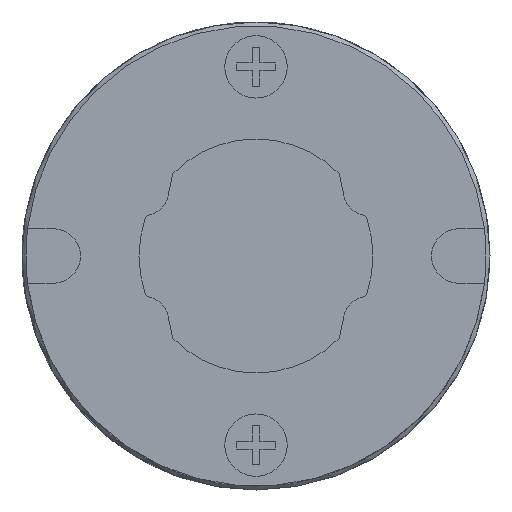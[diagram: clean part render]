
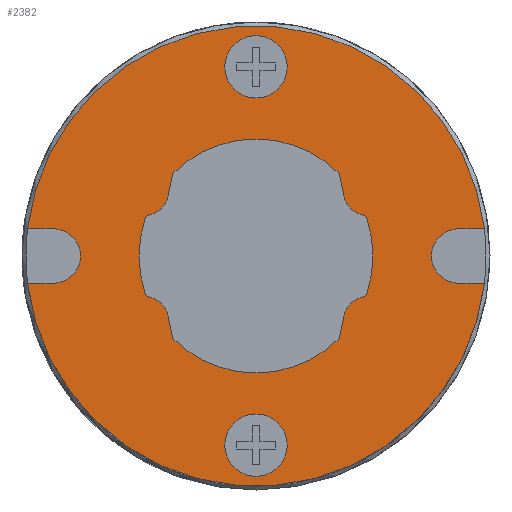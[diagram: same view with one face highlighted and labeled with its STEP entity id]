
A CAD part, left-side view. The second image highlights one B-rep face of the part: STEP entity #2382.
In plain terms, the highlighted planar face has unit normal (-1, 0, 0).
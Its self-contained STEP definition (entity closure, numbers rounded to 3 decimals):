
#50=PLANE('',#2605);
#190=LINE('',#3729,#432);
#191=LINE('',#3733,#433);
#192=LINE('',#3737,#434);
#193=LINE('',#3741,#435);
#194=LINE('',#3755,#436);
#195=LINE('',#3763,#437);
#196=LINE('',#3775,#438);
#197=LINE('',#3783,#439);
#432=VECTOR('',#3000,1000.);
#433=VECTOR('',#3003,1000.);
#434=VECTOR('',#3006,1000.);
#435=VECTOR('',#3009,1000.);
#436=VECTOR('',#3022,1000.);
#437=VECTOR('',#3029,1000.);
#438=VECTOR('',#3040,1000.);
#439=VECTOR('',#3047,1000.);
#796=ORIENTED_EDGE('',*,*,#1430,.T.);
#797=ORIENTED_EDGE('',*,*,#1431,.T.);
#798=ORIENTED_EDGE('',*,*,#1432,.T.);
#799=ORIENTED_EDGE('',*,*,#1433,.F.);
#800=ORIENTED_EDGE('',*,*,#1434,.T.);
#801=ORIENTED_EDGE('',*,*,#1435,.T.);
#802=ORIENTED_EDGE('',*,*,#1436,.T.);
#803=ORIENTED_EDGE('',*,*,#1364,.F.);
#804=ORIENTED_EDGE('',*,*,#1437,.F.);
#805=ORIENTED_EDGE('',*,*,#1438,.F.);
#806=ORIENTED_EDGE('',*,*,#1439,.F.);
#807=ORIENTED_EDGE('',*,*,#1440,.F.);
#808=ORIENTED_EDGE('',*,*,#1441,.F.);
#809=ORIENTED_EDGE('',*,*,#1442,.T.);
#810=ORIENTED_EDGE('',*,*,#1443,.F.);
#811=ORIENTED_EDGE('',*,*,#1444,.F.);
#812=ORIENTED_EDGE('',*,*,#1445,.F.);
#813=ORIENTED_EDGE('',*,*,#1446,.F.);
#814=ORIENTED_EDGE('',*,*,#1447,.F.);
#815=ORIENTED_EDGE('',*,*,#1448,.T.);
#816=ORIENTED_EDGE('',*,*,#1449,.F.);
#817=ORIENTED_EDGE('',*,*,#1450,.F.);
#818=ORIENTED_EDGE('',*,*,#1451,.F.);
#819=ORIENTED_EDGE('',*,*,#1452,.T.);
#820=ORIENTED_EDGE('',*,*,#1453,.F.);
#821=ORIENTED_EDGE('',*,*,#1454,.F.);
#822=ORIENTED_EDGE('',*,*,#1455,.F.);
#823=ORIENTED_EDGE('',*,*,#1456,.F.);
#824=ORIENTED_EDGE('',*,*,#1457,.F.);
#825=ORIENTED_EDGE('',*,*,#1458,.T.);
#1364=EDGE_CURVE('',#1692,#1693,#1918,.T.);
#1430=EDGE_CURVE('',#1692,#1756,#190,.T.);
#1431=EDGE_CURVE('',#1756,#1757,#1946,.T.);
#1432=EDGE_CURVE('',#1757,#1758,#191,.T.);
#1433=EDGE_CURVE('',#1759,#1758,#1947,.T.);
#1434=EDGE_CURVE('',#1759,#1760,#192,.T.);
#1435=EDGE_CURVE('',#1760,#1761,#1948,.T.);
#1436=EDGE_CURVE('',#1761,#1693,#193,.T.);
#1437=EDGE_CURVE('',#1762,#1762,#1949,.F.);
#1438=EDGE_CURVE('',#1763,#1763,#1950,.F.);
#1439=EDGE_CURVE('',#1764,#1765,#1951,.F.);
#1440=EDGE_CURVE('',#1766,#1764,#1952,.F.);
#1441=EDGE_CURVE('',#1767,#1766,#1953,.F.);
#1442=EDGE_CURVE('',#1767,#1768,#1954,.F.);
#1443=EDGE_CURVE('',#1769,#1768,#194,.T.);
#1444=EDGE_CURVE('',#1770,#1769,#1955,.F.);
#1445=EDGE_CURVE('',#1771,#1770,#1956,.F.);
#1446=EDGE_CURVE('',#1772,#1771,#1957,.F.);
#1447=EDGE_CURVE('',#1773,#1772,#195,.T.);
#1448=EDGE_CURVE('',#1773,#1774,#1958,.F.);
#1449=EDGE_CURVE('',#1775,#1774,#1959,.F.);
#1450=EDGE_CURVE('',#1776,#1775,#1960,.F.);
#1451=EDGE_CURVE('',#1777,#1776,#1961,.F.);
#1452=EDGE_CURVE('',#1777,#1778,#1962,.F.);
#1453=EDGE_CURVE('',#1779,#1778,#196,.T.);
#1454=EDGE_CURVE('',#1780,#1779,#1963,.F.);
#1455=EDGE_CURVE('',#1781,#1780,#1964,.F.);
#1456=EDGE_CURVE('',#1782,#1781,#1965,.F.);
#1457=EDGE_CURVE('',#1783,#1782,#197,.T.);
#1458=EDGE_CURVE('',#1783,#1765,#1966,.F.);
#1692=VERTEX_POINT('',#3594);
#1693=VERTEX_POINT('',#3595);
#1756=VERTEX_POINT('',#3730);
#1757=VERTEX_POINT('',#3732);
#1758=VERTEX_POINT('',#3734);
#1759=VERTEX_POINT('',#3736);
#1760=VERTEX_POINT('',#3738);
#1761=VERTEX_POINT('',#3740);
#1762=VERTEX_POINT('',#3743);
#1763=VERTEX_POINT('',#3745);
#1764=VERTEX_POINT('',#3747);
#1765=VERTEX_POINT('',#3748);
#1766=VERTEX_POINT('',#3750);
#1767=VERTEX_POINT('',#3752);
#1768=VERTEX_POINT('',#3754);
#1769=VERTEX_POINT('',#3756);
#1770=VERTEX_POINT('',#3758);
#1771=VERTEX_POINT('',#3760);
#1772=VERTEX_POINT('',#3762);
#1773=VERTEX_POINT('',#3764);
#1774=VERTEX_POINT('',#3766);
#1775=VERTEX_POINT('',#3768);
#1776=VERTEX_POINT('',#3770);
#1777=VERTEX_POINT('',#3772);
#1778=VERTEX_POINT('',#3774);
#1779=VERTEX_POINT('',#3776);
#1780=VERTEX_POINT('',#3778);
#1781=VERTEX_POINT('',#3780);
#1782=VERTEX_POINT('',#3782);
#1783=VERTEX_POINT('',#3784);
#1918=CIRCLE('',#2572,5.9);
#1946=CIRCLE('',#2606,0.7);
#1947=CIRCLE('',#2607,5.9);
#1948=CIRCLE('',#2608,0.7);
#1949=CIRCLE('',#2609,0.8);
#1950=CIRCLE('',#2610,0.8);
#1951=CIRCLE('',#2611,0.15);
#1952=CIRCLE('',#2612,3.);
#1953=CIRCLE('',#2613,0.15);
#1954=CIRCLE('',#2614,0.63);
#1955=CIRCLE('',#2615,0.15);
#1956=CIRCLE('',#2616,3.);
#1957=CIRCLE('',#2617,0.15);
#1958=CIRCLE('',#2618,0.63);
#1959=CIRCLE('',#2619,0.15);
#1960=CIRCLE('',#2620,3.);
#1961=CIRCLE('',#2621,0.15);
#1962=CIRCLE('',#2622,0.63);
#1963=CIRCLE('',#2623,0.15);
#1964=CIRCLE('',#2624,3.);
#1965=CIRCLE('',#2625,0.15);
#1966=CIRCLE('',#2626,0.63);
#2017=EDGE_LOOP('',(#796,#797,#798,#799,#800,#801,#802,#803));
#2018=EDGE_LOOP('',(#804));
#2019=EDGE_LOOP('',(#805));
#2020=EDGE_LOOP('',(#806,#807,#808,#809,#810,#811,#812,#813,#814,#815,#816,
#817,#818,#819,#820,#821,#822,#823,#824,#825));
#2177=FACE_BOUND('',#2017,.T.);
#2178=FACE_BOUND('',#2018,.T.);
#2179=FACE_BOUND('',#2019,.T.);
#2180=FACE_BOUND('',#2020,.T.);
#2382=ADVANCED_FACE('',(#2177,#2178,#2179,#2180),#50,.F.);
#2572=AXIS2_PLACEMENT_3D('',#3593,#2894,#2895);
#2605=AXIS2_PLACEMENT_3D('',#3728,#2998,#2999);
#2606=AXIS2_PLACEMENT_3D('',#3731,#3001,#3002);
#2607=AXIS2_PLACEMENT_3D('',#3735,#3004,#3005);
#2608=AXIS2_PLACEMENT_3D('',#3739,#3007,#3008);
#2609=AXIS2_PLACEMENT_3D('',#3742,#3010,#3011);
#2610=AXIS2_PLACEMENT_3D('',#3744,#3012,#3013);
#2611=AXIS2_PLACEMENT_3D('',#3746,#3014,#3015);
#2612=AXIS2_PLACEMENT_3D('',#3749,#3016,#3017);
#2613=AXIS2_PLACEMENT_3D('',#3751,#3018,#3019);
#2614=AXIS2_PLACEMENT_3D('',#3753,#3020,#3021);
#2615=AXIS2_PLACEMENT_3D('',#3757,#3023,#3024);
#2616=AXIS2_PLACEMENT_3D('',#3759,#3025,#3026);
#2617=AXIS2_PLACEMENT_3D('',#3761,#3027,#3028);
#2618=AXIS2_PLACEMENT_3D('',#3765,#3030,#3031);
#2619=AXIS2_PLACEMENT_3D('',#3767,#3032,#3033);
#2620=AXIS2_PLACEMENT_3D('',#3769,#3034,#3035);
#2621=AXIS2_PLACEMENT_3D('',#3771,#3036,#3037);
#2622=AXIS2_PLACEMENT_3D('',#3773,#3038,#3039);
#2623=AXIS2_PLACEMENT_3D('',#3777,#3041,#3042);
#2624=AXIS2_PLACEMENT_3D('',#3779,#3043,#3044);
#2625=AXIS2_PLACEMENT_3D('',#3781,#3045,#3046);
#2626=AXIS2_PLACEMENT_3D('',#3785,#3048,#3049);
#2894=DIRECTION('',(1.,0.,0.));
#2895=DIRECTION('',(0.,0.,-1.));
#2998=DIRECTION('',(1.,0.,0.));
#2999=DIRECTION('',(0.,0.,-1.));
#3000=DIRECTION('',(0.,-1.,0.));
#3001=DIRECTION('',(1.,0.,0.));
#3002=DIRECTION('',(0.,0.,-1.));
#3003=DIRECTION('',(0.,1.,0.));
#3004=DIRECTION('',(1.,0.,0.));
#3005=DIRECTION('',(0.,0.,-1.));
#3006=DIRECTION('',(0.,1.,0.));
#3007=DIRECTION('',(1.,0.,0.));
#3008=DIRECTION('',(0.,0.,-1.));
#3009=DIRECTION('',(0.,-1.,0.));
#3010=DIRECTION('',(1.,0.,0.));
#3011=DIRECTION('',(0.,0.,-1.));
#3012=DIRECTION('',(1.,0.,0.));
#3013=DIRECTION('',(0.,0.,-1.));
#3014=DIRECTION('',(1.,0.,0.));
#3015=DIRECTION('',(0.,0.,-1.));
#3016=DIRECTION('',(1.,0.,0.));
#3017=DIRECTION('',(0.,0.,-1.));
#3018=DIRECTION('',(1.,0.,0.));
#3019=DIRECTION('',(0.,0.,-1.));
#3020=DIRECTION('',(1.,0.,0.));
#3021=DIRECTION('',(0.,0.,-1.));
#3022=DIRECTION('',(0.,0.197,-0.98));
#3023=DIRECTION('',(1.,0.,0.));
#3024=DIRECTION('',(0.,0.,-1.));
#3025=DIRECTION('',(1.,0.,0.));
#3026=DIRECTION('',(0.,0.,-1.));
#3027=DIRECTION('',(1.,0.,0.));
#3028=DIRECTION('',(0.,0.,-1.));
#3029=DIRECTION('',(0.,0.197,0.98));
#3030=DIRECTION('',(1.,0.,0.));
#3031=DIRECTION('',(0.,0.,-1.));
#3032=DIRECTION('',(1.,0.,0.));
#3033=DIRECTION('',(0.,0.,-1.));
#3034=DIRECTION('',(1.,0.,0.));
#3035=DIRECTION('',(0.,0.,-1.));
#3036=DIRECTION('',(1.,0.,0.));
#3037=DIRECTION('',(0.,0.,-1.));
#3038=DIRECTION('',(1.,0.,0.));
#3039=DIRECTION('',(0.,0.,-1.));
#3040=DIRECTION('',(0.,-0.197,0.98));
#3041=DIRECTION('',(1.,0.,0.));
#3042=DIRECTION('',(0.,0.,-1.));
#3043=DIRECTION('',(1.,0.,0.));
#3044=DIRECTION('',(0.,0.,-1.));
#3045=DIRECTION('',(1.,0.,0.));
#3046=DIRECTION('',(0.,0.,-1.));
#3047=DIRECTION('',(0.,-0.197,-0.98));
#3048=DIRECTION('',(1.,0.,0.));
#3049=DIRECTION('',(0.,0.,-1.));
#3593=CARTESIAN_POINT('',(-8.3,0.,0.));
#3594=CARTESIAN_POINT('',(-8.3,5.858,0.7));
#3595=CARTESIAN_POINT('',(-8.3,-5.858,0.7));
#3728=CARTESIAN_POINT('',(-8.3,0.,0.));
#3729=CARTESIAN_POINT('',(-8.3,0.,0.7));
#3730=CARTESIAN_POINT('',(-8.3,5.2,0.7));
#3731=CARTESIAN_POINT('',(-8.3,5.2,0.));
#3732=CARTESIAN_POINT('',(-8.3,5.2,-0.7));
#3733=CARTESIAN_POINT('',(-8.3,0.,-0.7));
#3734=CARTESIAN_POINT('',(-8.3,5.858,-0.7));
#3735=CARTESIAN_POINT('',(-8.3,0.,0.));
#3736=CARTESIAN_POINT('',(-8.3,-5.858,-0.7));
#3737=CARTESIAN_POINT('',(-8.3,0.,-0.7));
#3738=CARTESIAN_POINT('',(-8.3,-5.2,-0.7));
#3739=CARTESIAN_POINT('',(-8.3,-5.2,0.));
#3740=CARTESIAN_POINT('',(-8.3,-5.2,0.7));
#3741=CARTESIAN_POINT('',(-8.3,0.,0.7));
#3742=CARTESIAN_POINT('',(-8.3,0.,-4.85));
#3743=CARTESIAN_POINT('',(-8.3,0.,-5.65));
#3744=CARTESIAN_POINT('',(-8.3,0.,4.85));
#3745=CARTESIAN_POINT('',(-8.3,0.,4.05));
#3746=CARTESIAN_POINT('',(-8.3,2.701,-0.908));
#3747=CARTESIAN_POINT('',(-8.3,2.844,-0.956));
#3748=CARTESIAN_POINT('',(-8.3,2.734,-1.055));
#3749=CARTESIAN_POINT('',(-8.3,0.,0.));
#3750=CARTESIAN_POINT('',(-8.3,2.844,0.956));
#3751=CARTESIAN_POINT('',(-8.3,2.701,0.908));
#3752=CARTESIAN_POINT('',(-8.3,2.734,1.055));
#3753=CARTESIAN_POINT('',(-8.3,2.87,1.67));
#3754=CARTESIAN_POINT('',(-8.3,2.252,1.546));
#3755=CARTESIAN_POINT('',(-8.3,2.464,0.495));
#3756=CARTESIAN_POINT('',(-8.3,2.147,2.07));
#3757=CARTESIAN_POINT('',(-8.3,2.,2.04));
#3758=CARTESIAN_POINT('',(-8.3,2.133,2.11));
#3759=CARTESIAN_POINT('',(-8.3,0.,0.));
#3760=CARTESIAN_POINT('',(-8.3,-2.133,2.11));
#3761=CARTESIAN_POINT('',(-8.3,-2.,2.04));
#3762=CARTESIAN_POINT('',(-8.3,-2.147,2.07));
#3763=CARTESIAN_POINT('',(-8.3,-2.464,0.495));
#3764=CARTESIAN_POINT('',(-8.3,-2.252,1.546));
#3765=CARTESIAN_POINT('',(-8.3,-2.87,1.67));
#3766=CARTESIAN_POINT('',(-8.3,-2.734,1.055));
#3767=CARTESIAN_POINT('',(-8.3,-2.701,0.908));
#3768=CARTESIAN_POINT('',(-8.3,-2.844,0.956));
#3769=CARTESIAN_POINT('',(-8.3,0.,0.));
#3770=CARTESIAN_POINT('',(-8.3,-2.844,-0.956));
#3771=CARTESIAN_POINT('',(-8.3,-2.701,-0.908));
#3772=CARTESIAN_POINT('',(-8.3,-2.734,-1.055));
#3773=CARTESIAN_POINT('',(-8.3,-2.87,-1.67));
#3774=CARTESIAN_POINT('',(-8.3,-2.252,-1.546));
#3775=CARTESIAN_POINT('',(-8.3,-2.464,-0.495));
#3776=CARTESIAN_POINT('',(-8.3,-2.147,-2.07));
#3777=CARTESIAN_POINT('',(-8.3,-2.,-2.04));
#3778=CARTESIAN_POINT('',(-8.3,-2.133,-2.11));
#3779=CARTESIAN_POINT('',(-8.3,0.,0.));
#3780=CARTESIAN_POINT('',(-8.3,2.133,-2.11));
#3781=CARTESIAN_POINT('',(-8.3,2.,-2.04));
#3782=CARTESIAN_POINT('',(-8.3,2.147,-2.07));
#3783=CARTESIAN_POINT('',(-8.3,2.464,-0.495));
#3784=CARTESIAN_POINT('',(-8.3,2.252,-1.546));
#3785=CARTESIAN_POINT('',(-8.3,2.87,-1.67));
